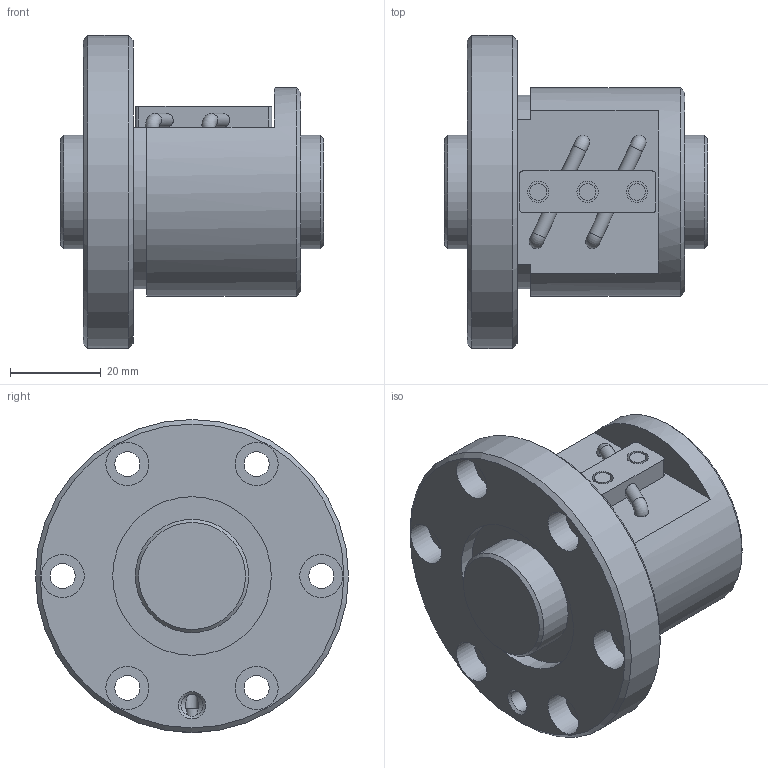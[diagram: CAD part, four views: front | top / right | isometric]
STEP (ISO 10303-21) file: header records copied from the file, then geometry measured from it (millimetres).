
FILE_DESCRIPTION(/* description */ ('STEP AP203'),/* implementation_level */ '2;1');
FILE_NAME(/* name */ 'BNF2504V-5RRG1+58LC0_000_rev',/* time_stamp */ '2024-08-06T07:29:04+02:00',/* author */ ('License CC BY-ND 4.0'),/* organization */ ('CADENAS'),/* preprocessor_version */ 'ST-DEVELOPER v19.3',/* originating_system */ 'PARTsolutions',/* authorisation */ ' ');
FILE_SCHEMA (('CONFIG_CONTROL_DESIGN'));
Length unit declared in the file: millimetre
Products named in the file (3): BNF2504V-5RRG1+58LC0_000_rev; BNF 2504-5RR000 Shaft; BNF 2504-5RR Nut
Assembly tree (2 placements, depth 2):
  BNF2504V-5RRG1+58LC0_000_rev
    BNF 2504-5RR000 Shaft
    BNF 2504-5RR Nut
Bounding box: 58 x 69 x 69 mm (x, y, z)
Volume: 94894.1 mm3; surface area: 26178.3 mm2
Topology: 2 solids, 2 shells, 78 faces, 172 edges, 113 vertices
Faces by surface type: cylinder 37, plane 29, cone 8, torus 4
Full cylindrical faces by diameter (mm): 2.75 x2, 3.065 x4, 3.68 x3, 4.68 x3, 4.917 x1, 5.5 x6, 9.5 x6, 25 x2, 34.96 x2, 46 x1, 69 x1
Entity records: 1991 total; most frequent: DIRECTION 352, CARTESIAN_POINT 341, ORIENTED_EDGE 230, AXIS2_PLACEMENT_3D 164, EDGE_LOOP 160, FACE_BOUND 160, EDGE_CURVE 115, VERTEX_POINT 99
